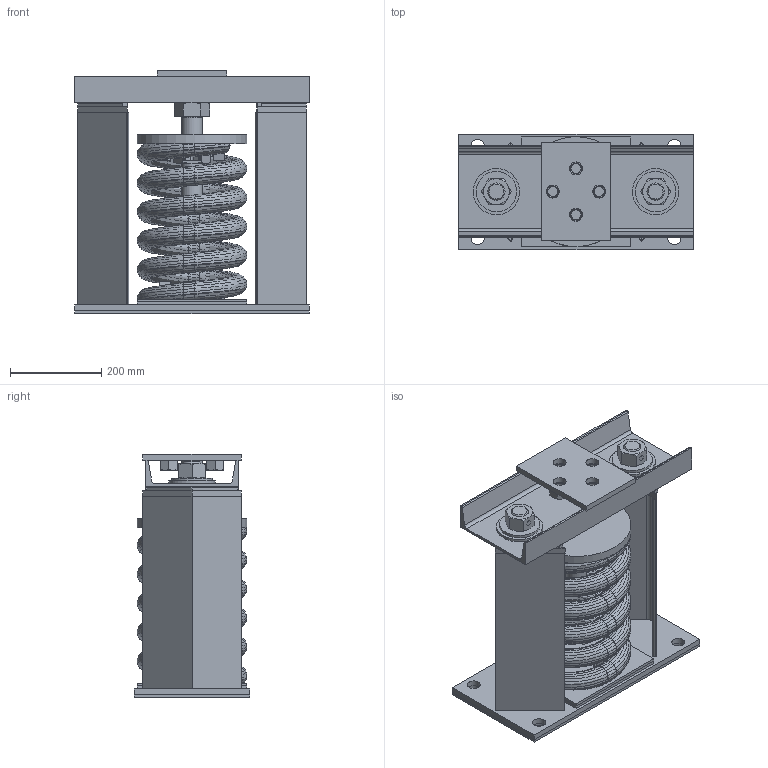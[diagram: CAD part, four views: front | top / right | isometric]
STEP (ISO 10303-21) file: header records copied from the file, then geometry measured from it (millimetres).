
FILE_DESCRIPTION(/* description */ (''),/* implementation_level */ '2;1');
FILE_NAME(/* name */ '\\Mleuckthor2\cad-proe_solids\WEBSITE FILES 05.22.13\STEP\SLR 100 SERIES\SLR-141.stp',/* time_stamp */ '2016-01-19T15:57:29-05:00',/* author */ ('rramoutar'),/* organization */ ('Mason Industries Inc.'),/* preprocessor_version */ 'ST-DEVELOPER v15.6',/* originating_system */ 'Autodesk Inventor 2015',/* authorisation */ '');
FILE_SCHEMA (('CONFIG_CONTROL_DESIGN'));
Products named in the file (1): SLR-141 PER A-21778-4
Bounding box: 514.35 x 254 x 533.4 mm (x, y, z)
Volume: 10011306.8 mm3; surface area: 3023973.2 mm2
Topology: 38 solids, 38 shells, 978 faces, 2098 edges, 1201 vertices
Faces by surface type: bspline 490, plane 285, cone 122, cylinder 78, torus 3
Full cylindrical faces by diameter (mm): 9.525 x2, 12.7 x1, 21.971 x4, 28.575 x12, 33.337 x2, 33.528 x2, 38.1 x2, 38.964 x1, 39.688 x2, 40.894 x1, 44.45 x3, 47.625 x1, 48.26 x1, 50.8 x2, 57.15 x4, 66.675 x1, 88.9 x2, 101.6 x2, 241.3 x1
Entity records: 45426 total; most frequent: CARTESIAN_POINT 27734, ORIENTED_EDGE 3998, DIRECTION 2078, EDGE_CURVE 1999, VERTEX_POINT 1171, EDGE_LOOP 1114, STYLED_ITEM 1016, B_SPLINE_CURVE_WITH_KNOTS 992
